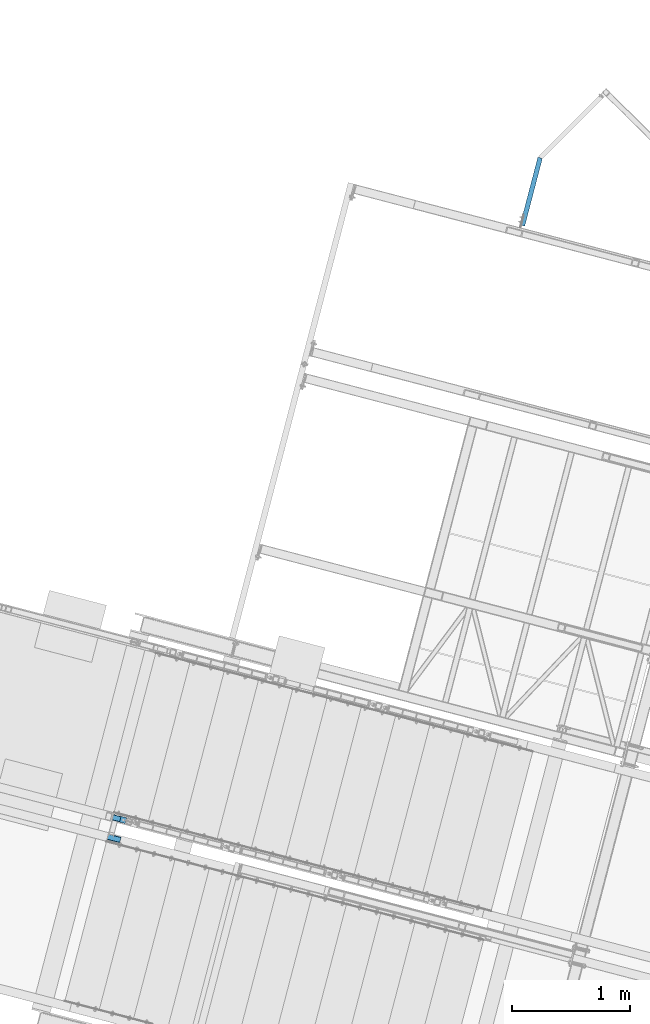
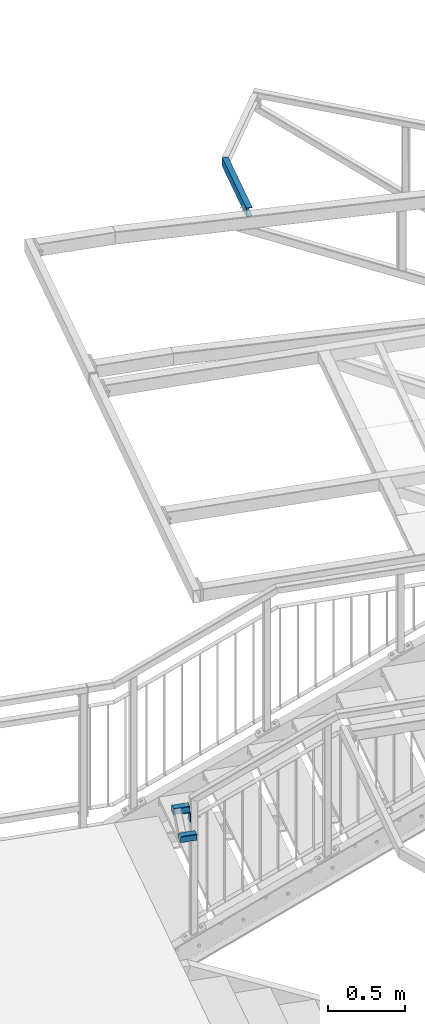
# One storey, part 21 of 169: 4 beams, 4 elements without a shape of their own.
"""IFC2X3 building model written with IfcOpenShell, lengths in millimetres."""

from ifc_helpers import new_model, si_unit, frame, origin_with_axes, origin_2d_with_axis, place, context, subcontext, project, spatial, hollow_rectangle, l_section, u_section, extrude, clip, halfspace, material, type_object, element, aggregate, save


model = new_model("IFC2X3")

# Units and contexts
model_context = context("Model", 3, precision=1e-05, world=origin_with_axes())
body_context = subcontext(model_context, "Body", "Model", "MODEL_VIEW")
ifc_project = project(units=[si_unit("LENGTHUNIT", "METRE", prefix="MILLI"), si_unit("AREAUNIT", "SQUARE_METRE"), si_unit("VOLUMEUNIT", "CUBIC_METRE"), si_unit("MASSUNIT", "GRAM", prefix="KILO"), si_unit("TIMEUNIT", "SECOND"), si_unit("PLANEANGLEUNIT", "RADIAN"), si_unit("SOLIDANGLEUNIT", "STERADIAN"), si_unit("THERMODYNAMICTEMPERATUREUNIT", "DEGREE_CELSIUS"), si_unit("LUMINOUSINTENSITYUNIT", "LUMEN")], contexts=[model_context])

# Site, building, storey
site_placement = place(None, origin_with_axes())
site = spatial("IfcSite", under=ifc_project, at=site_placement, Name="Undefined", CompositionType="ELEMENT")
building_placement = place(site_placement, origin_with_axes())
building = spatial("IfcBuilding", under=site, at=building_placement, Name="Undefined", CompositionType="ELEMENT")
storey_placement = place(building_placement, origin_with_axes())
storey = spatial("IfcBuildingStorey", under=building, at=storey_placement, Name="Undefined", CompositionType="ELEMENT", Elevation=0.0)

# Assembly, beam
assembly_1_placement = place(storey_placement, origin_with_axes())
assembly_1 = element("IfcElementAssembly", 1, at=assembly_1_placement, inside=storey, Name="Steel Assembly", AssemblyPlace="NOTDEFINED", PredefinedType="RIGID_FRAME")
ifc_material = material(Name="STEEL/S235")
beam_type_1 = type_object("IfcBeamType", Name="RHS50*3", PredefinedType="NOTDEFINED")
beam_1_placement = place(assembly_1_placement, frame((-27866.116451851, 7178.92489404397, 13348.9606235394), z_axis=(-0.252504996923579, -0.96759558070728, 0.000136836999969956), x_axis=(-0.967595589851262, 0.252504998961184, 0.0)))
beam_1 = element("IfcBeam", 2, at=beam_1_placement, type_object=beam_type_1, material=ifc_material, Name="PORĘCZ", ObjectType="RHS50*3", context=body_context, shape_type="SweptSolid", body=[
    extrude(hollow_rectangle(XDim=50.0, YDim=50.0, WallThickness=3.0, InnerFilletRadius=3.0, OuterFilletRadius=6.0, at=origin_2d_with_axis()), frame((109.99999999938, 0.0, 0.0), z_axis=(-1.0, -3.46944695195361e-18, -1.38777878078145e-17), x_axis=(1.73472347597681e-18, -1.0, 0.0)), (0.0, 0.0, 1.0), 110.0),
])
aggregate(assembly_1, [beam_1])

assembly_2_placement = place(storey_placement, origin_with_axes())
assembly_2 = element("IfcElementAssembly", 3, at=assembly_2_placement, inside=storey, Name="Steel Assembly", AssemblyPlace="NOTDEFINED", PredefinedType="RIGID_FRAME")
beam_2_placement = place(assembly_2_placement, frame((-27823.1179208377, 7343.56262489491, 13455.1970352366), z_axis=(-0.252504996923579, -0.96759558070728, 0.000136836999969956), x_axis=(-0.967595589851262, 0.252504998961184, 0.0)))
beam_2 = element("IfcBeam", 4, at=beam_2_placement, type_object=beam_type_1, material=ifc_material, Name="PORĘCZ", ObjectType="RHS50*3", context=body_context, shape_type="SweptSolid", body=[
    extrude(hollow_rectangle(XDim=50.0, YDim=50.0, WallThickness=3.0, InnerFilletRadius=3.0, OuterFilletRadius=6.0, at=origin_2d_with_axis()), frame((109.99999999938, 0.0, 0.0), z_axis=(-1.0, -3.46944695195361e-18, -1.38777878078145e-17), x_axis=(1.73472347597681e-18, -1.0, 0.0)), (0.0, 0.0, 1.0), 110.0),
])
aggregate(assembly_2, [beam_2])

assembly_3_placement = place(storey_placement, origin_with_axes())
assembly_3 = element("IfcElementAssembly", 5, at=assembly_3_placement, inside=storey, Name="Steel Assembly", AssemblyPlace="NOTDEFINED", PredefinedType="RIGID_FRAME")
beam_type_2 = type_object("IfcBeamType", Name="L80*50*3", PredefinedType="NOTDEFINED")
beam_3_placement = place(assembly_3_placement, frame((-27848.7960396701, 7324.41547073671, 13390.2141409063), z_axis=(-0.000201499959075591, -0.000230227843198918, -0.999999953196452), x_axis=(0.252694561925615, 0.96754606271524, -0.000273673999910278)))
beam_3 = element("IfcBeam", 6, at=beam_3_placement, type_object=beam_type_2, material=ifc_material, Name="PORĘCZ", ObjectType="L80*50*3", context=body_context, shape_type="SweptSolid", body=[
    extrude(l_section(Depth=80.0, Width=50.0, Thickness=3.0, FilletRadius=4.5, at=origin_2d_with_axis()), frame((50.0001107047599, -7.27240276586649e-12, 1.81898940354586e-12), z_axis=(-1.0, -3.46944695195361e-18, -1.38777878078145e-17), x_axis=(1.73472347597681e-18, -1.0, 0.0)), (0.0, 0.0, 1.0), 50.0),
])
aggregate(assembly_3, [beam_3])

assembly_4_placement = place(storey_placement, origin_with_axes())
assembly_4 = element("IfcElementAssembly", 7, at=assembly_4_placement, inside=storey, Name="Steel Assembly", AssemblyPlace="NOTDEFINED", PredefinedType="RIGID_FRAME")
beam_type_3 = type_object("IfcBeamType", Name="C70*40*4", PredefinedType="NOTDEFINED")
beam_4_placement = place(assembly_4_placement, frame((-24359.7910516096, 12769.7297999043, 13945.1073379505), z_axis=(8.00909999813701e-05, -0.000162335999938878, -0.999999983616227), x_axis=(-0.252625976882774, -0.967564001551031, 0.000136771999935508)))
beam_4 = element("IfcBeam", 8, at=beam_4_placement, type_object=beam_type_3, material=ifc_material, Name="BEAM", ObjectType="C70*40*4", context=body_context, shape_type="Clipping", body=[
    clip(clip(extrude(u_section(Depth=70.0, FlangeWidth=40.0, WebThickness=4.0, FlangeThickness=4.0, FilletRadius=6.0, at=origin_2d_with_axis()), frame((400.030769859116, 3.60259002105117e-12, 1.81901108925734e-12), z_axis=(-1.0, -3.46944695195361e-18, -1.38777878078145e-17), x_axis=(1.73472347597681e-18, -1.0, 0.0)), (0.0, 0.0, 1.0), 593.46), halfspace(frame((400.030761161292, -4.29930369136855e-05, -135.000038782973), z_axis=(0.999999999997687, 2.14988770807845e-06, -6.44373331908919e-08), x_axis=(2.14988770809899e-06, -0.999999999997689, 3.18646925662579e-10)), False)), halfspace(frame((-187.987057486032, -20.0350600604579, 0.308690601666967), z_axis=(0.965041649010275, 0.262096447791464, 0.000260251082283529), x_axis=(-3.57839780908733e-10, -0.000992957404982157, 0.999999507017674)), True)),
])
aggregate(assembly_4, [beam_4])

save(model, "model.ifc")
